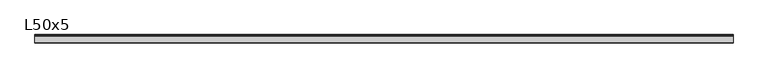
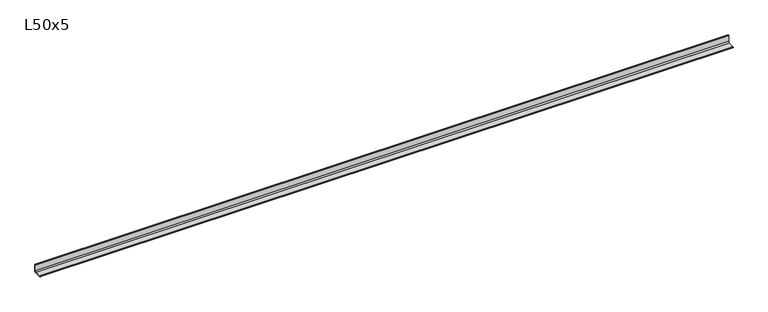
"""IFC4 building model written with IfcOpenShell, lengths in millimetres: beam geometry, Cornière à ailes égales : L50x5."""

from ifc_helpers import new_model, si_unit, point, frame, frame_2d, origin, place, context, project, spatial, polyline, circle_curve, trimmed, segment, composite_curve, outline, extrude, source, transform, mapped, element, save


def l50x5_1feda4a4(model_context):
    return source(origin(), model_context, "Body", "SweptSolid", [
        extrude(outline(composite_curve([segment(polyline([(14.0, -14.0), (-36.0, -14.0), (-36.0, -12.5)]), True, "CONTINUOUS"), segment(trimmed(circle_curve(frame_2d((-32.5, -12.5)), 3.5), [point((-36.0, -12.5))], [point((-32.5, -9.0))], False, "CARTESIAN"), True, "CONTINUOUS"), segment(polyline([(-32.5, -9.0), (2.0, -9.0)]), True, "CONTINUOUS"), segment(trimmed(circle_curve(frame_2d((2.0, -2.0)), 7.0), [point((2.0, -9.0))], [point((9.0, -2.0))], True, "CARTESIAN"), True, "CONTINUOUS"), segment(polyline([(9.0, -2.0), (9.0, 32.5)]), True, "CONTINUOUS"), segment(trimmed(circle_curve(frame_2d((12.5, 32.5)), 3.5), [point((9.0, 32.5))], [point((12.5, 36.0))], False, "CARTESIAN"), True, "CONTINUOUS"), segment(polyline([(12.5, 36.0), (14.0, 36.0), (14.0, -14.0)]), True, "CONTINUOUS")], self_intersect=False)), frame((-2074.45, 0.0, 0.0), z_axis=(1.0, 0.0, 0.0), x_axis=(0.0, 1.0, 0.0)), (0.0, 0.0, 1.0), 4139.4),
    ])


if __name__ == "__main__":
    model = new_model("IFC4")
    model_context = context("Model", 3, world=origin())
    ifc_project = project(units=[si_unit("LENGTHUNIT", "METRE", prefix="MILLI")], contexts=[model_context])
    site = spatial("IfcSite", under=ifc_project)
    building = spatial("IfcBuilding", under=site)
    placement = place(None, origin())
    l50x5_shape = l50x5_1feda4a4(model_context)
    element("IfcBeam", 1, ObjectType="Cornière à ailes égales : L50x5", at=placement, inside=building, context=model_context, shape_type="MappedRepresentation", body=[
        mapped(l50x5_shape, transform((0.0, 0.0, 0.0), x_axis=(1.0, 0.0, 0.0), y_axis=(0.0, 1.0, 0.0), z_axis=(0.0, 0.0, 1.0))),
    ])
    save(model, "model.ifc")
